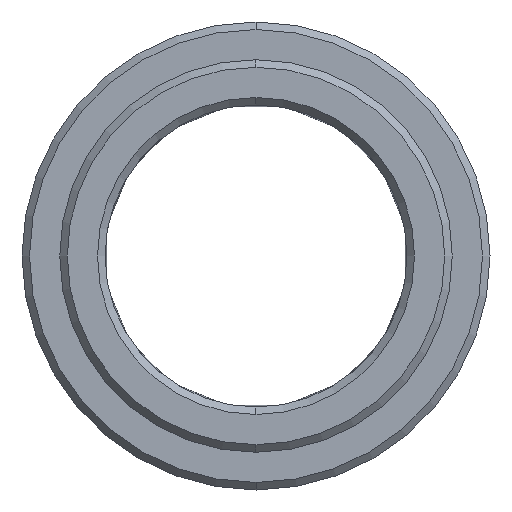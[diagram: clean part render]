
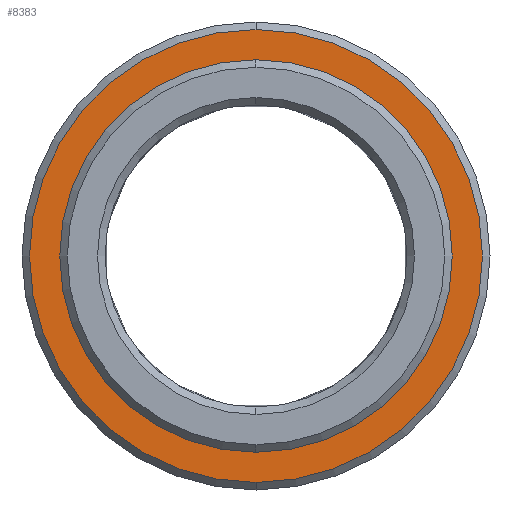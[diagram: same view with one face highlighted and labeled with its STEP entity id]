
A CAD part, left-side view. The second image highlights one B-rep face of the part: STEP entity #8383.
In plain terms, the highlighted planar face has unit normal (-1, 0, 0).
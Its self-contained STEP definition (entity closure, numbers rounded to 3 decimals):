
#3252=CARTESIAN_POINT('',(0.,0.,0.));
#3253=DIRECTION('',(1.,0.,0.));
#3254=DIRECTION('',(0.,0.,1.));
#3255=AXIS2_PLACEMENT_3D('',#3252,#3253,#3254);
#3257=CARTESIAN_POINT('',(0.,0.,0.));
#3258=DIRECTION('',(-1.,0.,0.));
#3259=DIRECTION('',(0.,0.,1.));
#3260=AXIS2_PLACEMENT_3D('',#3257,#3258,#3259);
#3262=CARTESIAN_POINT('',(0.,0.,0.));
#3263=DIRECTION('',(1.,0.,0.));
#3264=DIRECTION('',(0.,0.,-1.));
#3265=AXIS2_PLACEMENT_3D('',#3262,#3263,#3264);
#3267=CARTESIAN_POINT('',(0.,0.,
0.));
#3268=DIRECTION('',(1.,0.,0.));
#3269=DIRECTION('',(0.,0.,1.));
#3270=AXIS2_PLACEMENT_3D('',#3267,#3268,#3269);
#6718=CARTESIAN_POINT('',(0.,0.,-15.));
#6719=CARTESIAN_POINT('',(0.,0.,15.));
#6720=VERTEX_POINT('',#6718);
#6721=VERTEX_POINT('',#6719);
#6930=CARTESIAN_POINT('',(0.,0.,13.));
#6931=CARTESIAN_POINT('',(0.,0.,-13.));
#6932=VERTEX_POINT('',#6930);
#6933=VERTEX_POINT('',#6931);
#8368=CARTESIAN_POINT('',(0.,0.,0.));
#8369=DIRECTION('',(1.,0.,0.));
#8370=DIRECTION('',(0.,0.,1.));
#8371=AXIS2_PLACEMENT_3D('',#8368,#8369,#8370);
#8372=PLANE('',#8371);
#8374=ORIENTED_EDGE('',*,*,#8373,.T.);
#8376=ORIENTED_EDGE('',*,*,#8375,.T.);
#8377=EDGE_LOOP('',(#8374,#8376));
#8378=FACE_OUTER_BOUND('',#8377,.F.);
#8379=ORIENTED_EDGE('',*,*,#8335,.F.);
#8380=ORIENTED_EDGE('',*,*,#8350,.T.);
#8381=EDGE_LOOP('',(#8379,#8380));
#8382=FACE_BOUND('',#8381,.F.);
#8383=ADVANCED_FACE('',(#8378,#8382),#8372,.F.);
#3256=CIRCLE('',#3255,13.);
#3261=CIRCLE('',#3260,13.);
#3266=CIRCLE('',#3265,15.);
#3271=CIRCLE('',#3270,15.);
#8335=EDGE_CURVE('',#6932,#6933,#3256,.T.);
#8350=EDGE_CURVE('',#6932,#6933,#3261,.T.);
#8373=EDGE_CURVE('',#6720,#6721,#3266,.T.);
#8375=EDGE_CURVE('',#6721,#6720,#3271,.T.);
